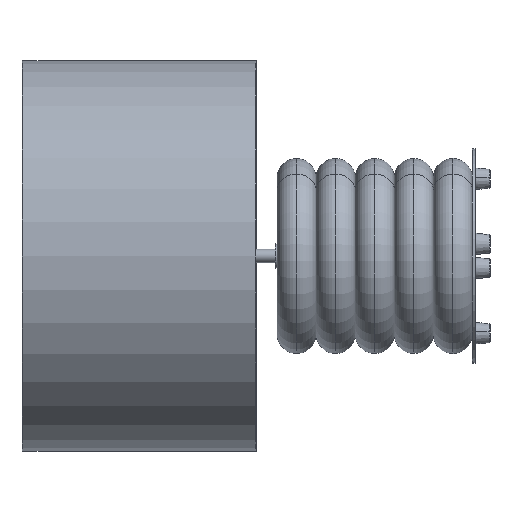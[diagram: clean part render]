
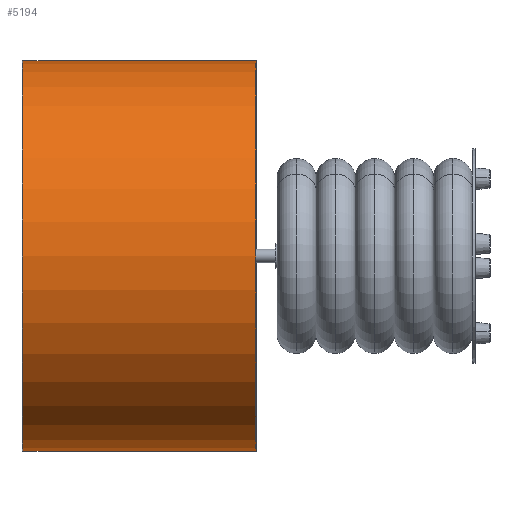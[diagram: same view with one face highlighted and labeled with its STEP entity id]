
A CAD part, left-side view. The second image highlights one B-rep face of the part: STEP entity #5194.
In plain terms, the highlighted cylindrical face has radius 200 mm (diameter 400 mm), a partial arc.
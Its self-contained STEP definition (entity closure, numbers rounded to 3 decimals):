
#96 = DIRECTION ( 'NONE',  ( 0., 0., -1. ) ) ;
#296 = ORIENTED_EDGE ( 'NONE', *, *, #4153, .T. ) ;
#436 = EDGE_CURVE ( 'NONE', #1980, #3036, #3905, .T. ) ;
#448 = EDGE_LOOP ( 'NONE', ( #2779, #551, #296, #3448 ) ) ;
#551 = ORIENTED_EDGE ( 'NONE', *, *, #1302, .T. ) ;
#1146 = AXIS2_PLACEMENT_3D ( 'NONE', #4471, #4493, #3194 ) ;
#1302 = EDGE_CURVE ( 'NONE', #1980, #2616, #4192, .T. ) ;
#1319 = LINE ( 'NONE', #5468, #5168 ) ;
#1326 = CARTESIAN_POINT ( 'NONE',  ( 25., 513.314, 200. ) ) ;
#1533 = EDGE_CURVE ( 'NONE', #3036, #4691, #1865, .T. ) ;
#1622 = DIRECTION ( 'NONE',  ( 0., 0., -1. ) ) ;
#1776 = DIRECTION ( 'NONE',  ( 0., -1., 0. ) ) ;
#1865 = CIRCLE ( 'NONE', #4541, 200. ) ;
#1871 = VECTOR ( 'NONE', #1776, 1000. ) ;
#1980 = VERTEX_POINT ( 'NONE', #3349 ) ;
#2414 = FACE_OUTER_BOUND ( 'NONE', #448, .T. ) ;
#2616 = VERTEX_POINT ( 'NONE', #4865 ) ;
#2779 = ORIENTED_EDGE ( 'NONE', *, *, #436, .F. ) ;
#3036 = VERTEX_POINT ( 'NONE', #5359 ) ;
#3194 = DIRECTION ( 'NONE',  ( 0., 0., -1. ) ) ;
#3349 = CARTESIAN_POINT ( 'NONE',  ( 25., 721.314, 200. ) ) ;
#3448 = ORIENTED_EDGE ( 'NONE', *, *, #1533, .F. ) ;
#3672 = AXIS2_PLACEMENT_3D ( 'NONE', #3858, #4221, #1622 ) ;
#3858 = CARTESIAN_POINT ( 'NONE',  ( 25., 721.314, 0. ) ) ;
#3905 = LINE ( 'NONE', #1326, #1871 ) ;
#4111 = CARTESIAN_POINT ( 'NONE',  ( 25., 483.314, -200. ) ) ;
#4153 = EDGE_CURVE ( 'NONE', #2616, #4691, #1319, .T. ) ;
#4172 = DIRECTION ( 'NONE',  ( 0., -1., 0. ) ) ;
#4192 = CIRCLE ( 'NONE', #3672, 200. ) ;
#4221 = DIRECTION ( 'NONE',  ( 0., -1., 0. ) ) ;
#4254 = CYLINDRICAL_SURFACE ( 'NONE', #1146, 200. ) ;
#4398 = DIRECTION ( 'NONE',  ( 0., -1., 0. ) ) ;
#4422 = CARTESIAN_POINT ( 'NONE',  ( 25., 483.314, 0. ) ) ;
#4471 = CARTESIAN_POINT ( 'NONE',  ( 25., 513.314, 0. ) ) ;
#4493 = DIRECTION ( 'NONE',  ( 0., -1., 0. ) ) ;
#4541 = AXIS2_PLACEMENT_3D ( 'NONE', #4422, #4398, #96 ) ;
#4691 = VERTEX_POINT ( 'NONE', #4111 ) ;
#4865 = CARTESIAN_POINT ( 'NONE',  ( 25., 721.314, -200. ) ) ;
#5168 = VECTOR ( 'NONE', #4172, 1000. ) ;
#5194 = ADVANCED_FACE ( 'NONE', ( #2414 ), #4254, .T. ) ;
#5359 = CARTESIAN_POINT ( 'NONE',  ( 25., 483.314, 200. ) ) ;
#5468 = CARTESIAN_POINT ( 'NONE',  ( 25., 513.314, -200. ) ) ;
